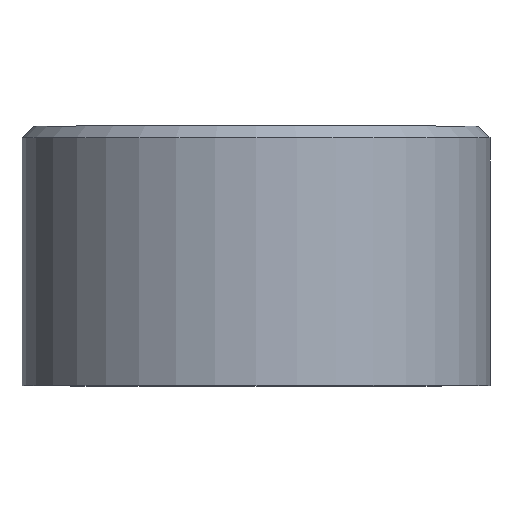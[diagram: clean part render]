
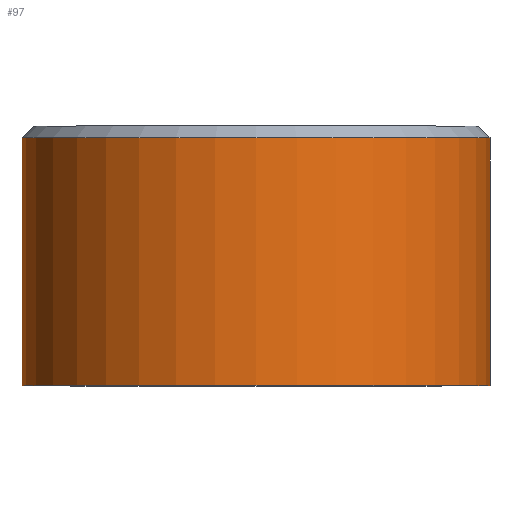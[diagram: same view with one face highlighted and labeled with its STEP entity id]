
A CAD part, top view. The second image highlights one B-rep face of the part: STEP entity #97.
In plain terms, the highlighted cylindrical face has radius 55 mm (diameter 110 mm), a full revolution.
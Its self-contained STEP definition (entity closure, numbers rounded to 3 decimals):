
#15=CYLINDRICAL_SURFACE('',#110,55.);
#23=FACE_BOUND('',#42,.T.);
#31=FACE_OUTER_BOUND('',#41,.T.);
#41=EDGE_LOOP('',(#81));
#42=EDGE_LOOP('',(#82));
#53=CIRCLE('',#106,55.);
#56=CIRCLE('',#111,55.);
#61=VERTEX_POINT('',#157);
#64=VERTEX_POINT('',#165);
#69=EDGE_CURVE('',#61,#61,#53,.T.);
#72=EDGE_CURVE('',#64,#64,#56,.T.);
#81=ORIENTED_EDGE('',*,*,#72,.T.);
#82=ORIENTED_EDGE('',*,*,#69,.F.);
#97=ADVANCED_FACE('',(#31,#23),#15,.T.);
#106=AXIS2_PLACEMENT_3D('',#158,#125,#126);
#110=AXIS2_PLACEMENT_3D('',#164,#133,#134);
#111=AXIS2_PLACEMENT_3D('',#166,#135,#136);
#125=DIRECTION('center_axis',(0.,1.,0.));
#126=DIRECTION('ref_axis',(1.,0.,0.));
#133=DIRECTION('center_axis',(0.,1.,0.));
#134=DIRECTION('ref_axis',(-1.,0.,0.));
#135=DIRECTION('center_axis',(0.,1.,0.));
#136=DIRECTION('ref_axis',(1.,0.,0.));
#157=CARTESIAN_POINT('',(-55.,58.25,0.));
#158=CARTESIAN_POINT('Origin',(0.,58.25,0.));
#164=CARTESIAN_POINT('Origin',(0.,30.5,0.));
#165=CARTESIAN_POINT('',(-55.,0.,0.));
#166=CARTESIAN_POINT('Origin',(0.,0.,0.));
